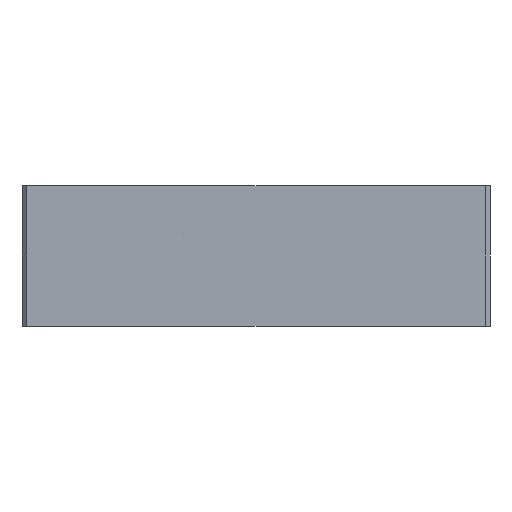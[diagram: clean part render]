
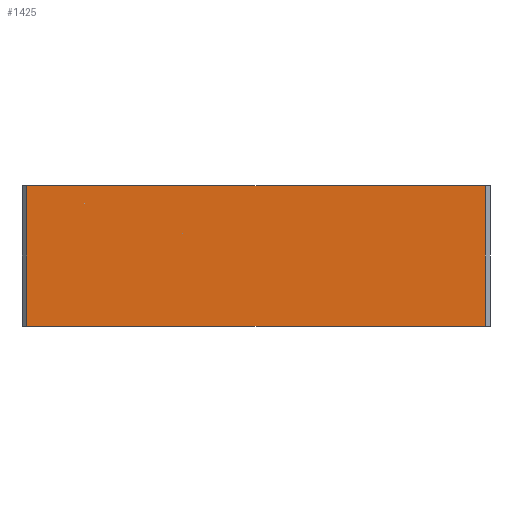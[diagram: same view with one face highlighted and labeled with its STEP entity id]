
A CAD part, front view. The second image highlights one B-rep face of the part: STEP entity #1425.
In plain terms, the highlighted planar face has unit normal (0, -1, 0).
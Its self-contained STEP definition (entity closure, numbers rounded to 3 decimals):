
#48 = DIRECTION ( 'NONE',  ( 0., 0., -1. ) ) ;
#57 = VECTOR ( 'NONE', #1273, 1000. ) ;
#165 = CARTESIAN_POINT ( 'NONE',  ( -25., -25., 7.5 ) ) ;
#293 = DIRECTION ( 'NONE',  ( 0., 0., 1. ) ) ;
#325 = ORIENTED_EDGE ( 'NONE', *, *, #1101, .T. ) ;
#331 = FACE_OUTER_BOUND ( 'NONE', #839, .T. ) ;
#373 = CARTESIAN_POINT ( 'NONE',  ( -24.5, -25., -7.5 ) ) ;
#400 = VERTEX_POINT ( 'NONE', #864 ) ;
#429 = CARTESIAN_POINT ( 'NONE',  ( 24.5, -25., 7.5 ) ) ;
#430 = VERTEX_POINT ( 'NONE', #1382 ) ;
#452 = VERTEX_POINT ( 'NONE', #373 ) ;
#489 = ORIENTED_EDGE ( 'NONE', *, *, #785, .T. ) ;
#499 = CARTESIAN_POINT ( 'NONE',  ( -24.5, -25., 7.5 ) ) ;
#639 = DIRECTION ( 'NONE',  ( 1., 0., 0. ) ) ;
#749 = LINE ( 'NONE', #1084, #1296 ) ;
#785 = EDGE_CURVE ( 'NONE', #430, #400, #1280, .T. ) ;
#794 = ORIENTED_EDGE ( 'NONE', *, *, #1378, .T. ) ;
#803 = LINE ( 'NONE', #1156, #1147 ) ;
#819 = ORIENTED_EDGE ( 'NONE', *, *, #1231, .F. ) ;
#839 = EDGE_LOOP ( 'NONE', ( #819, #794, #325, #489 ) ) ;
#864 = CARTESIAN_POINT ( 'NONE',  ( 24.5, -25., 7.5 ) ) ;
#879 = AXIS2_PLACEMENT_3D ( 'NONE', #165, #1279, #1395 ) ;
#883 = CARTESIAN_POINT ( 'NONE',  ( -25., -25., 7.5 ) ) ;
#942 = LINE ( 'NONE', #883, #57 ) ;
#969 = VECTOR ( 'NONE', #293, 1000. ) ;
#1066 = VERTEX_POINT ( 'NONE', #499 ) ;
#1084 = CARTESIAN_POINT ( 'NONE',  ( -25., -25., -7.5 ) ) ;
#1101 = EDGE_CURVE ( 'NONE', #452, #430, #749, .T. ) ;
#1147 = VECTOR ( 'NONE', #48, 1000. ) ;
#1156 = CARTESIAN_POINT ( 'NONE',  ( -24.5, -25., 7.5 ) ) ;
#1177 = PLANE ( 'NONE',  #879 ) ;
#1231 = EDGE_CURVE ( 'NONE', #1066, #400, #942, .T. ) ;
#1273 = DIRECTION ( 'NONE',  ( 1., 0., 0. ) ) ;
#1279 = DIRECTION ( 'NONE',  ( 0., 1., 0. ) ) ;
#1280 = LINE ( 'NONE', #429, #969 ) ;
#1296 = VECTOR ( 'NONE', #639, 1000. ) ;
#1378 = EDGE_CURVE ( 'NONE', #1066, #452, #803, .T. ) ;
#1382 = CARTESIAN_POINT ( 'NONE',  ( 24.5, -25., -7.5 ) ) ;
#1395 = DIRECTION ( 'NONE',  ( -1., 0., 0. ) ) ;
#1425 = ADVANCED_FACE ( 'NONE', ( #331 ), #1177, .F. ) ;
